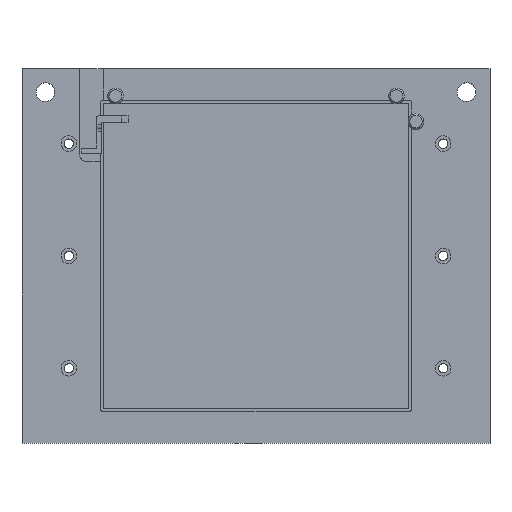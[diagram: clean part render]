
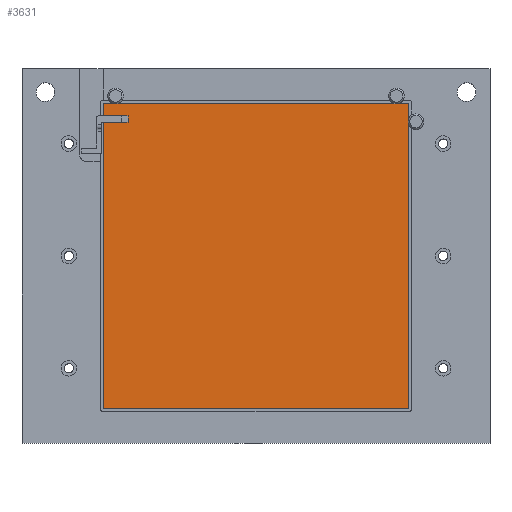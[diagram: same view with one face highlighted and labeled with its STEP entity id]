
A CAD part, top view. The second image highlights one B-rep face of the part: STEP entity #3631.
In plain terms, the highlighted planar face has unit normal (0, 0, 1) as drawn and (0, 0, -1) by its records, which use the part's own axes.
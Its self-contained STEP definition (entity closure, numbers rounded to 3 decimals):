
#3592=CARTESIAN_POINT('Axis2P3D Location',(0.,0.,0.)) ;
#3597=CARTESIAN_POINT('Line Origine',(0.,48.77,0.)) ;
#3601=CARTESIAN_POINT('Vertex',(48.77,48.77,0.)) ;
#3603=CARTESIAN_POINT('Vertex',(-48.77,48.77,0.)) ;
#3606=CARTESIAN_POINT('Line Origine',(48.77,0.,0.)) ;
#3610=CARTESIAN_POINT('Vertex',(48.77,-48.77,0.)) ;
#3613=CARTESIAN_POINT('Line Origine',(0.,-48.77,0.)) ;
#3617=CARTESIAN_POINT('Vertex',(-48.77,-48.77,0.)) ;
#3620=CARTESIAN_POINT('Line Origine',(-48.77,0.,0.)) ;
#3593=DIRECTION('Axis2P3D Direction',(0.,0.,1.)) ;
#3594=DIRECTION('Axis2P3D XDirection',(1.,0.,0.)) ;
#3598=DIRECTION('Vector Direction',(1.,0.,0.)) ;
#3607=DIRECTION('Vector Direction',(0.,1.,0.)) ;
#3614=DIRECTION('Vector Direction',(-1.,0.,0.)) ;
#3621=DIRECTION('Vector Direction',(0.,-1.,0.)) ;
#3595=AXIS2_PLACEMENT_3D('Plane Axis2P3D',#3592,#3593,#3594) ;
#3626=ORIENTED_EDGE('',*,*,#3605,.F.) ;
#3627=ORIENTED_EDGE('',*,*,#3612,.F.) ;
#3628=ORIENTED_EDGE('',*,*,#3619,.F.) ;
#3629=ORIENTED_EDGE('',*,*,#3624,.F.) ;
#3599=VECTOR('Line Direction',#3598,1.) ;
#3608=VECTOR('Line Direction',#3607,1.) ;
#3615=VECTOR('Line Direction',#3614,1.) ;
#3622=VECTOR('Line Direction',#3621,1.) ;
#3631=ADVANCED_FACE('Corps principal',(#3630),#3596,.F.) ;
#3605=EDGE_CURVE('',#3602,#3604,#3600,.F.) ;
#3612=EDGE_CURVE('',#3611,#3602,#3609,.T.) ;
#3619=EDGE_CURVE('',#3618,#3611,#3616,.F.) ;
#3624=EDGE_CURVE('',#3604,#3618,#3623,.T.) ;
#3625=EDGE_LOOP('',(#3626,#3627,#3628,#3629)) ;
#3630=FACE_OUTER_BOUND('',#3625,.T.) ;
#3600=LINE('Line',#3597,#3599) ;
#3609=LINE('Line',#3606,#3608) ;
#3616=LINE('Line',#3613,#3615) ;
#3623=LINE('Line',#3620,#3622) ;
#3596=PLANE('Plane',#3595) ;
#3602=VERTEX_POINT('',#3601) ;
#3604=VERTEX_POINT('',#3603) ;
#3611=VERTEX_POINT('',#3610) ;
#3618=VERTEX_POINT('',#3617) ;
